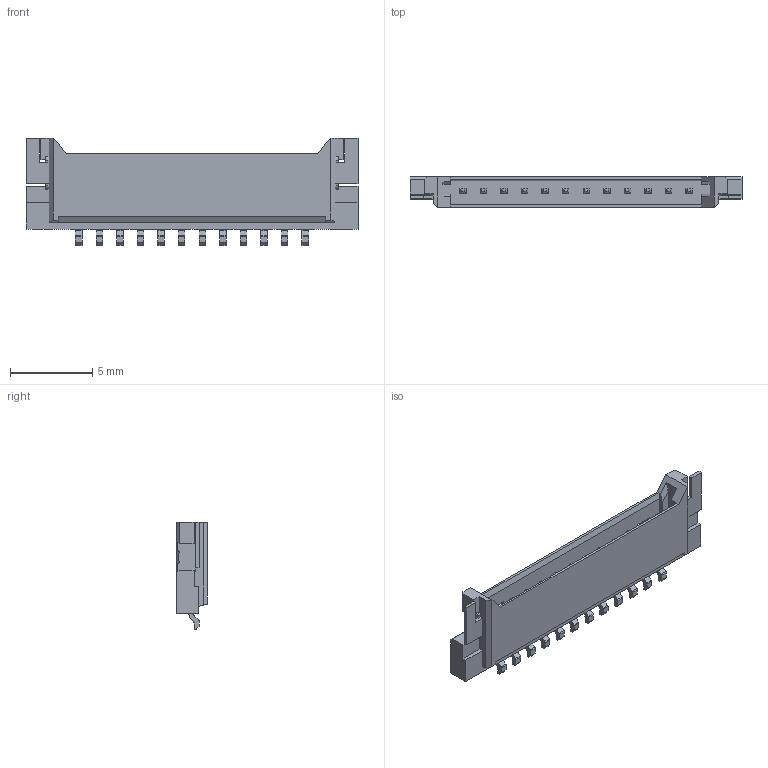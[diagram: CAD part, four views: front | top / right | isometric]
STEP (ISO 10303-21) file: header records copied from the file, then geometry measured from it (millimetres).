
FILE_DESCRIPTION((''),'2;1');
FILE_NAME('11','2022-08-01T',('k94555'),(''),'PRO/ENGINEER BY PARAMETRIC TECHNOLOGY CORPORATION, 2009360','PRO/ENGINEER BY PARAMETRIC TECHNOLOGY CORPORATION, 2009360','');
FILE_SCHEMA(('CONFIG_CONTROL_DESIGN'));
Length unit declared in the file: millimetre
Products named in the file (1): 11
Bounding box: 20.15 x 1.85 x 6.5 mm (x, y, z)
Volume: 80.3 mm3; surface area: 480.9 mm2
Topology: 1 solids, 29 shells, 841 faces, 2219 edges, 1468 vertices
Faces by surface type: plane 781, cylinder 60
Entity records: 25354 total; most frequent: CARTESIAN_POINT 4474, ORIENTED_EDGE 4326, DIRECTION 4029, EDGE_CURVE 2163, VECTOR 2095, LINE 2095, VERTEX_POINT 1412, AXIS2_PLACEMENT_3D 967
